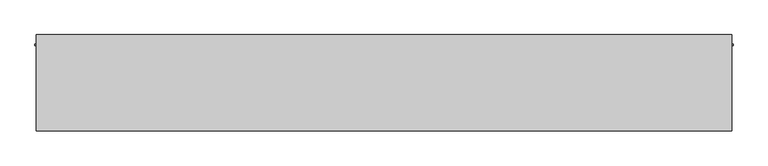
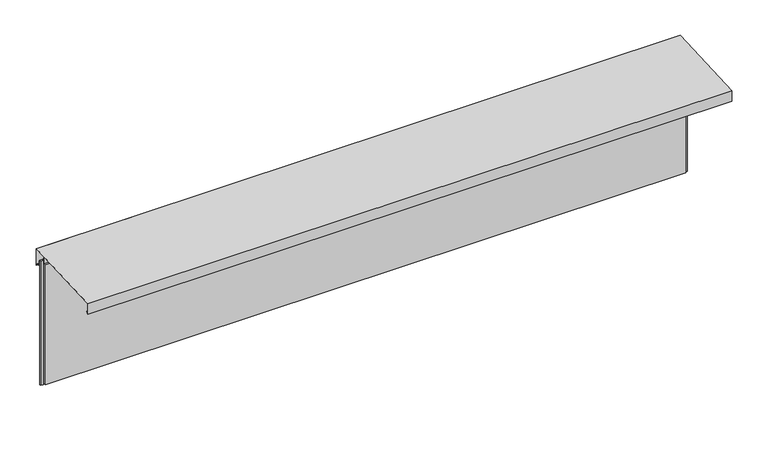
"""IFC4 building model written with IfcOpenShell, lengths in millimetres: plate geometry, Trimo_Qbiss Screen_Normal Panel-HORIZONTAL : HR - B."""

from ifc_helpers import new_model, si_unit, frame, origin, place, context, project, spatial, polyline, outline, extrude, source, transform, mapped, element, save


def plate_77bf08a6(model_context):
    return source(origin(), model_context, "Body", "SweptSolid", [
        extrude(outline(polyline([(101.0, 868.0), (77.0, 868.0), (77.0, 868.8), (101.8, 868.8), (101.8, 831.8), (125.3313708, 831.8), (133.2, 823.9313708), (133.2, 822.8), (125.0, 831.0), (101.0, 831.0), (101.0, 868.0)])), frame((-2179.4549816, 0.0, 0.0), z_axis=(1.0, 0.0, 0.0), x_axis=(0.0, 1.0, 0.0)), (0.0, 0.0, 1.0), 4358.9099631),
        extrude(outline(polyline([(134.2, 818.9715729), (134.2, 934.1569759), (-469.2, 905.4165497), (-469.2, 833.1070922), (-457.6367532, 844.670339), (-457.0710678, 844.1046536), (-470.0, 831.1757214), (-470.0, 906.1757214), (135.0, 935.0), (135.0, 817.040202), (123.020101, 829.020101), (123.5857864, 829.5857864), (134.2, 818.9715729)])), frame((-2179.4549816, 0.0, 0.0), z_axis=(1.0, 0.0, 0.0), x_axis=(0.0, 1.0, 0.0)), (0.0, 0.0, 1.0), 4358.9099631),
        extrude(outline(polyline([(-2169.9549816, 76.5978162), (-2169.9549816, 67.8978162), (-2188.9549816, 67.8978162), (-2188.9549816, 76.5978162), (-2169.9549816, 76.5978162)])), frame((0.0, 0.0, -1.0), z_axis=(0.0, 0.0, 1.0), x_axis=(1.0, 0.0, 0.0)), (0.0, 0.0, 1.0), 890.0),
        extrude(outline(polyline([(2169.9549816, 67.8978162), (2169.9549816, 76.5978162), (2188.9549816, 76.5978162), (2188.9549816, 67.8978162), (2169.9549816, 67.8978162)])), frame((0.0, 0.0, -1.0), z_axis=(0.0, 0.0, 1.0), x_axis=(1.0, 0.0, 0.0)), (0.0, 0.0, 1.0), 890.0),
        extrude(outline(polyline([(2166.9549816, 76.0), (2166.9549816, 71.0), (-2166.9549816, 71.0), (-2166.9549816, 76.0), (2166.9549816, 76.0)])), frame((0.0, 0.0, 868.0), z_axis=(0.0, 0.0, 1.0), x_axis=(1.0, 0.0, 0.0)), (0.0, 0.0, 1.0), 21.0),
        extrude(outline(polyline([(71.0, 867.0), (100.0, 867.0), (100.0, 0.0), (72.0, 0.0), (72.0, 15.5), (62.0, 15.5), (62.0, 7.0), (50.0, 7.0), (50.0, 867.0), (63.0, 867.0), (63.0, 904.5), (71.0, 904.5), (71.0, 867.0)])), frame((-2166.9549816, 0.0, 0.0), z_axis=(1.0, 0.0, 0.0), x_axis=(0.0, 1.0, 0.0)), (0.0, 0.0, 1.0), 4333.9099631),
    ])


if __name__ == "__main__":
    model = new_model("IFC4")
    model_context = context("Model", 3, world=origin())
    ifc_project = project(units=[si_unit("LENGTHUNIT", "METRE", prefix="MILLI")], contexts=[model_context])
    site = spatial("IfcSite", under=ifc_project)
    building = spatial("IfcBuilding", under=site)
    placement = place(None, origin())
    plate_shape = plate_77bf08a6(model_context)
    element("IfcPlate", 1, ObjectType="Trimo_Qbiss Screen_Normal Panel-HORIZONTAL : HR - B", at=placement, inside=building, context=model_context, shape_type="MappedRepresentation", body=[
        mapped(plate_shape, transform((0.0, 0.0, 0.0), x_axis=(1.0, 0.0, 0.0), y_axis=(0.0, 1.0, 0.0), z_axis=(0.0, 0.0, 1.0))),
    ])
    save(model, "model.ifc")
